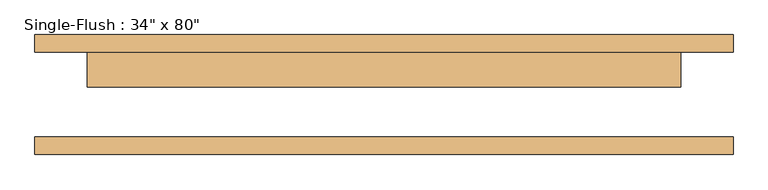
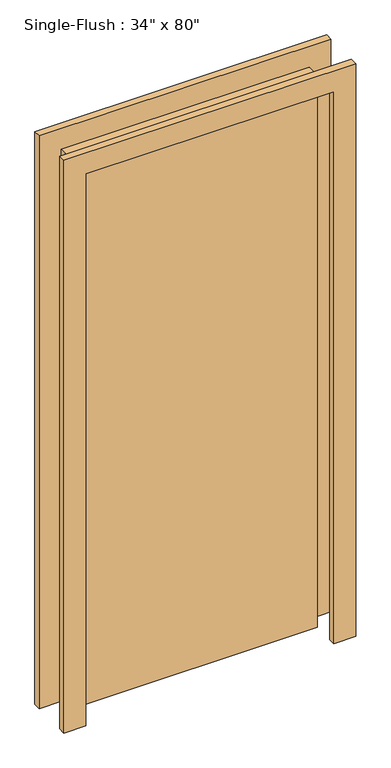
"""IFC4 building model written with IfcOpenShell, lengths in millimetres: door geometry."""

from ifc_helpers import new_model, si_unit, frame, origin, origin_with_axes, place, context, project, spatial, polyline, outline, extrude, source, transform, mapped, element, save


def door_ecd1ec3f(model_context):
    return source(origin(), model_context, "Body", "SweptSolid", [
        extrude(outline(polyline([(2108.2, -508.0), (0.0, -508.0), (0.0, -431.8), (2032.0, -431.8), (2032.0, 431.8), (0.0, 431.8), (0.0, 508.0), (2108.2, 508.0), (2108.2, -508.0)])), frame((0.0, 61.9125, 0.0), z_axis=(0.0, 1.0, 0.0), x_axis=(0.0, 0.0, 1.0)), (0.0, 0.0, 1.0), 25.4),
        extrude(outline(polyline([(2108.2, 508.0), (2108.2, -508.0), (0.0, -508.0), (0.0, -431.8), (2032.0, -431.8), (2032.0, 431.8), (0.0, 431.8), (0.0, 508.0), (2108.2, 508.0)])), frame((0.0, -87.3125, 0.0), z_axis=(0.0, 1.0, 0.0), x_axis=(0.0, 0.0, 1.0)), (0.0, 0.0, 1.0), 25.4),
        extrude(outline(polyline([(431.8, 11.1125), (-431.8, 11.1125), (-431.8, 61.9125), (431.8, 61.9125), (431.8, 11.1125)])), origin_with_axes(), (0.0, 0.0, 1.0), 2032.0),
    ])


if __name__ == "__main__":
    model = new_model("IFC4")
    model_context = context("Model", 3, world=origin())
    ifc_project = project(units=[si_unit("LENGTHUNIT", "METRE", prefix="MILLI")], contexts=[model_context])
    site = spatial("IfcSite", under=ifc_project)
    building = spatial("IfcBuilding", under=site)
    placement = place(None, origin())
    door_shape = door_ecd1ec3f(model_context)
    element("IfcDoor", 1, ObjectType="Single-Flush : 34\" x 80\"", at=placement, inside=building, context=model_context, shape_type="MappedRepresentation", body=[
        mapped(door_shape, transform((0.0, 0.0, 0.0), x_axis=(1.0, 0.0, 0.0), y_axis=(0.0, 1.0, 0.0), z_axis=(0.0, 0.0, 1.0))),
    ])
    save(model, "model.ifc")
